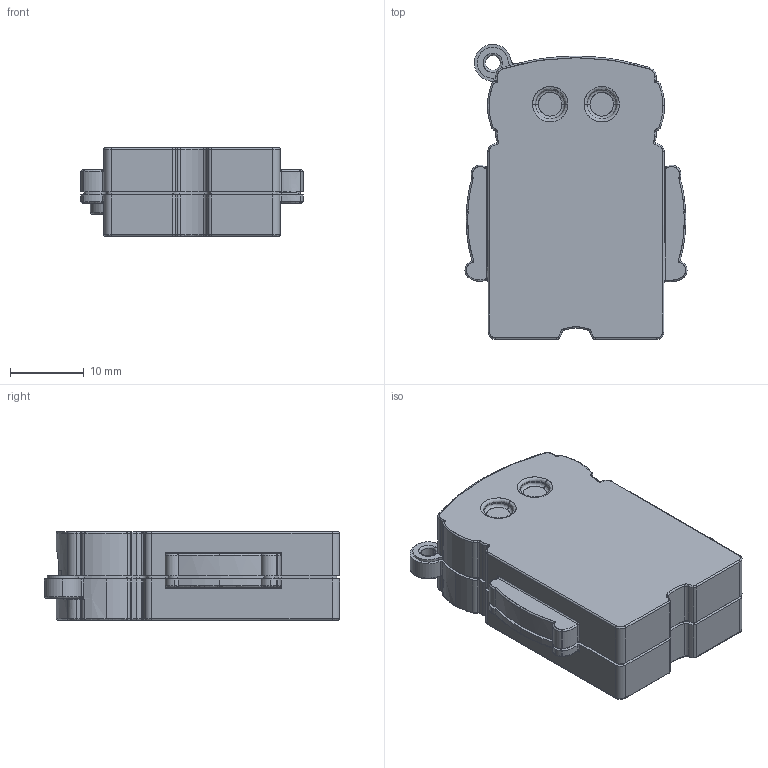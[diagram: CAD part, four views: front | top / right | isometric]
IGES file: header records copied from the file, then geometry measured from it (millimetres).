
Global section: file name: Filename.iges; native system: Open CASCADE 7.5; preprocessor: Open CASCADE IGES processor 7.5; date: 20210414.171823; units: millimetre
Bounding box: 30.14 x 40.06 x 12 mm (x, y, z)
Surface area: 7758.6 mm2 (no closed solid volume)
Topology: 0 solids, 0 shells, 1028 faces, 5696 edges, 5655 vertices
Faces by surface type: revolution 501, plane 454, bspline 73
